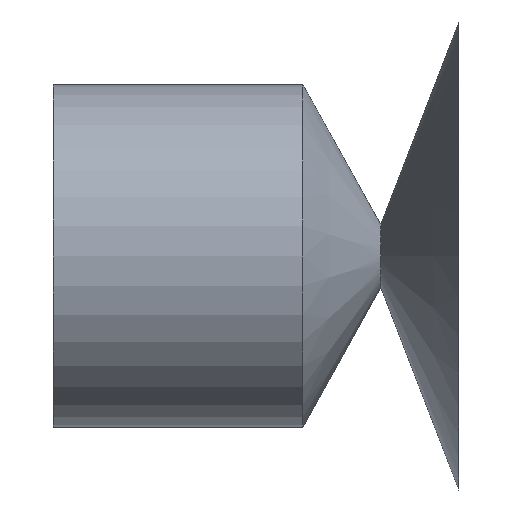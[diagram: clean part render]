
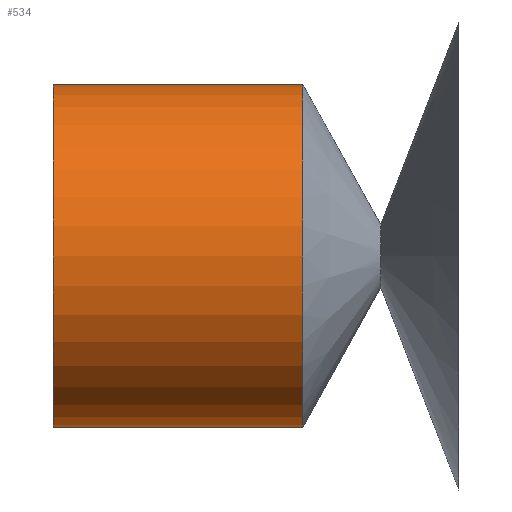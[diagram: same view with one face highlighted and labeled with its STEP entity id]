
A CAD part, left-side view. The second image highlights one B-rep face of the part: STEP entity #534.
In plain terms, the highlighted cylindrical face has radius 5.5 mm (diameter 11 mm), a partial arc.
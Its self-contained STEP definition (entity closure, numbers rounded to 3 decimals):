
#8 = LINE ( 'NONE', #94, #404 ) ;
#14 = DIRECTION ( 'NONE',  ( 0., -1., 0. ) ) ;
#43 = AXIS2_PLACEMENT_3D ( 'NONE', #279, #106, #253 ) ;
#46 = AXIS2_PLACEMENT_3D ( 'NONE', #570, #154, #340 ) ;
#67 = CARTESIAN_POINT ( 'NONE',  ( 0., 0., -5.5 ) ) ;
#68 = FACE_OUTER_BOUND ( 'NONE', #400, .T. ) ;
#94 = CARTESIAN_POINT ( 'NONE',  ( 0., 0., 5.5 ) ) ;
#102 = EDGE_CURVE ( 'NONE', #322, #519, #8, .T. ) ;
#106 = DIRECTION ( 'NONE',  ( 0., -1., 0. ) ) ;
#154 = DIRECTION ( 'NONE',  ( 0., -1., 0. ) ) ;
#186 = CARTESIAN_POINT ( 'NONE',  ( 0., 5., 5.5 ) ) ;
#218 = VERTEX_POINT ( 'NONE', #437 ) ;
#229 = ORIENTED_EDGE ( 'NONE', *, *, #584, .F. ) ;
#232 = LINE ( 'NONE', #67, #295 ) ;
#237 = ORIENTED_EDGE ( 'NONE', *, *, #102, .F. ) ;
#241 = EDGE_CURVE ( 'NONE', #322, #218, #290, .T. ) ;
#253 = DIRECTION ( 'NONE',  ( 0., 0., -1. ) ) ;
#256 = ORIENTED_EDGE ( 'NONE', *, *, #548, .T. ) ;
#279 = CARTESIAN_POINT ( 'NONE',  ( 0., 13., 0. ) ) ;
#290 = CIRCLE ( 'NONE', #43, 5.5 ) ;
#295 = VECTOR ( 'NONE', #14, 1000. ) ;
#301 = AXIS2_PLACEMENT_3D ( 'NONE', #531, #346, #480 ) ;
#322 = VERTEX_POINT ( 'NONE', #564 ) ;
#340 = DIRECTION ( 'NONE',  ( 0., 0., -1. ) ) ;
#345 = DIRECTION ( 'NONE',  ( 0., -1., 0. ) ) ;
#346 = DIRECTION ( 'NONE',  ( 0., -1., 0. ) ) ;
#400 = EDGE_LOOP ( 'NONE', ( #237, #417, #256, #229 ) ) ;
#404 = VECTOR ( 'NONE', #345, 1000. ) ;
#407 = CYLINDRICAL_SURFACE ( 'NONE', #46, 5.5 ) ;
#417 = ORIENTED_EDGE ( 'NONE', *, *, #241, .T. ) ;
#428 = CIRCLE ( 'NONE', #301, 5.5 ) ;
#437 = CARTESIAN_POINT ( 'NONE',  ( 0., 13., -5.5 ) ) ;
#456 = CARTESIAN_POINT ( 'NONE',  ( 0., 5., -5.5 ) ) ;
#480 = DIRECTION ( 'NONE',  ( 0., 0., -1. ) ) ;
#519 = VERTEX_POINT ( 'NONE', #186 ) ;
#531 = CARTESIAN_POINT ( 'NONE',  ( 0., 5., 0. ) ) ;
#534 = ADVANCED_FACE ( 'NONE', ( #68 ), #407, .T. ) ;
#538 = VERTEX_POINT ( 'NONE', #456 ) ;
#548 = EDGE_CURVE ( 'NONE', #218, #538, #232, .T. ) ;
#564 = CARTESIAN_POINT ( 'NONE',  ( 0., 13., 5.5 ) ) ;
#570 = CARTESIAN_POINT ( 'NONE',  ( 0., 0., 0. ) ) ;
#584 = EDGE_CURVE ( 'NONE', #519, #538, #428, .T. ) ;
